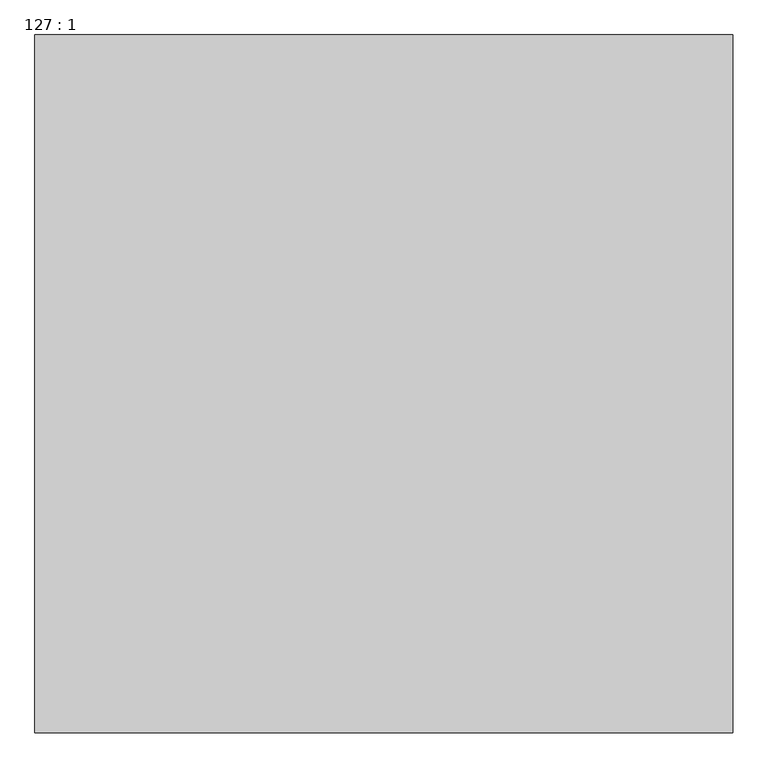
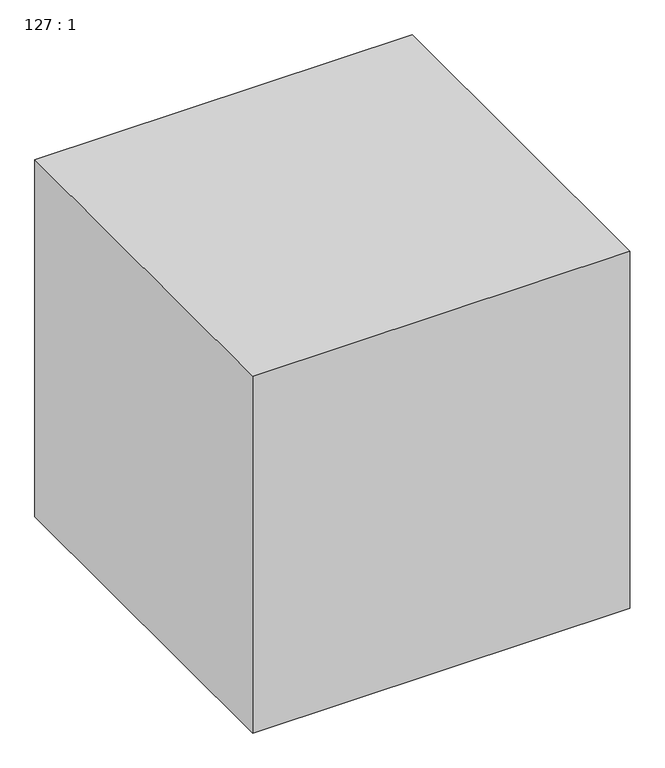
"""IFC4 building model written with IfcOpenShell, lengths in millimetres: proxy geometry, 127 : 1."""

from ifc_helpers import new_model, si_unit, origin, origin_with_axes, place, context, project, spatial, polyline, outline, extrude, source, transform, mapped, element, save


def proxy_127_1_18f8452b(model_context):
    return source(origin(), model_context, "Body", "SweptSolid", [
        extrude(outline(polyline([(9692.0243292, -4664.7705528), (9692.0243292, -5664.7705528), (8692.0243292, -5664.7705528), (8692.0243292, -4664.7705528), (9692.0243292, -4664.7705528)])), origin_with_axes(), (0.0, 0.0, 1.0), 1000.0),
    ])


if __name__ == "__main__":
    model = new_model("IFC4")
    model_context = context("Model", 3, world=origin())
    ifc_project = project(units=[si_unit("LENGTHUNIT", "METRE", prefix="MILLI")], contexts=[model_context])
    site = spatial("IfcSite", under=ifc_project)
    building = spatial("IfcBuilding", under=site)
    placement = place(None, origin())
    proxy_127_1_shape = proxy_127_1_18f8452b(model_context)
    element("IfcBuildingElementProxy", 1, Name="127 : 1", ObjectType="127 : 1", at=placement, inside=building, context=model_context, shape_type="MappedRepresentation", body=[
        mapped(proxy_127_1_shape, transform((0.0, 0.0, 0.0), x_axis=(1.0, 0.0, 0.0), y_axis=(0.0, 1.0, 0.0), z_axis=(0.0, 0.0, 1.0))),
    ])
    save(model, "model.ifc")
